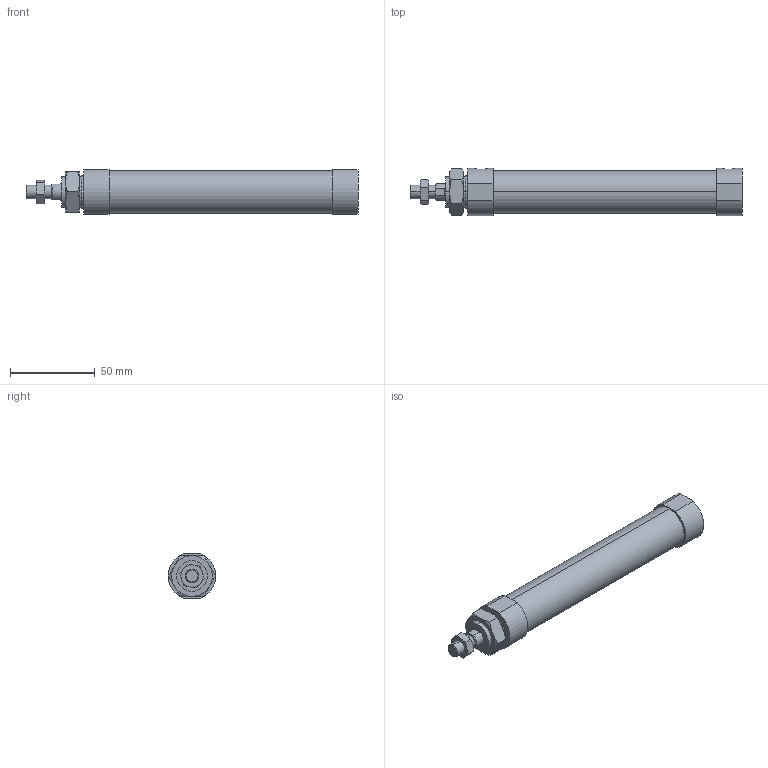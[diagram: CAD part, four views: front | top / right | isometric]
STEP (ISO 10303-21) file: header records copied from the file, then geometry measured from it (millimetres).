
FILE_DESCRIPTION (( 'STEP AP203' ), '1' );
FILE_NAME ('JGND2-20-100-N.STEP', '2016-08-04T02:30:52', ( '' ), ( '' ), 'SwSTEP 2.0', 'SolidWorks 2014', '' );
FILE_SCHEMA (( 'CONFIG_CONTROL_DESIGN' ));
Length unit declared in the file: millimetre
Products named in the file (4): J#2-20-100(P); JGND2-20-100-N
Assembly tree (3 placements, depth 2):
  JGND2-20-100-N
    J#2-20-100(P)
    (unnamed)
    (unnamed)
Bounding box: 196 x 28 x 26 mm (x, y, z)
Volume: 88679.4 mm3; surface area: 18572.9 mm2
Topology: 3 solids, 3 shells, 84 faces, 182 edges, 112 vertices
Faces by surface type: plane 34, torus 24, cylinder 22, cone 4
Entity records: 3040 total; most frequent: CARTESIAN_POINT 840, DIRECTION 378, ORIENTED_EDGE 364, EDGE_CURVE 182, AXIS2_PLACEMENT_3D 162, VERTEX_POINT 112, EDGE_LOOP 96, FACE_OUTER_BOUND 84
